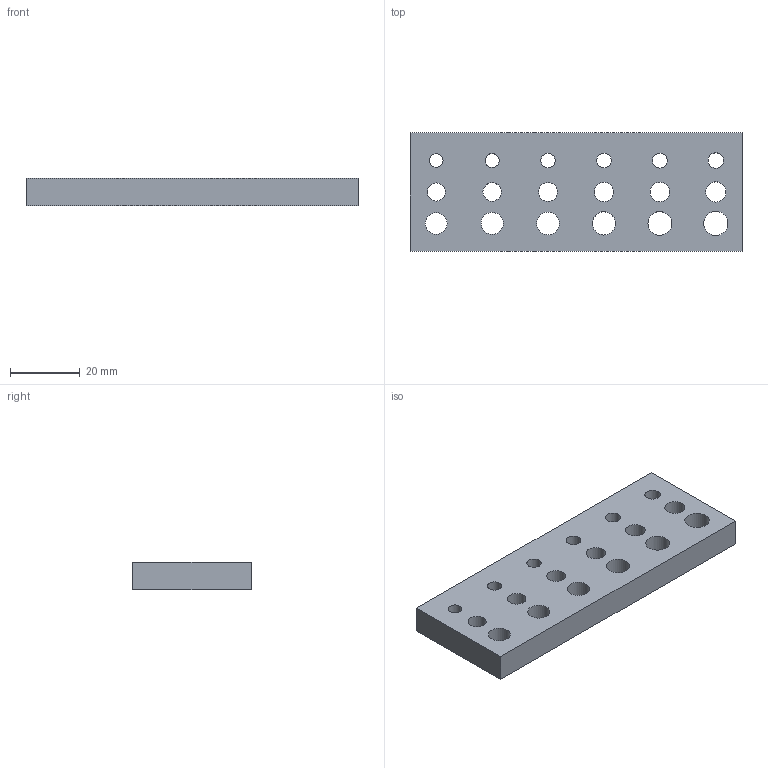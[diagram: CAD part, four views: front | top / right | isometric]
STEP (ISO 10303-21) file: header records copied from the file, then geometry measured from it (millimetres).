
FILE_DESCRIPTION(('Open CASCADE Model'),'2;1');
FILE_NAME('Open CASCADE Shape Model','2026-09-10T23:36:51',('Author'),( 'Open CASCADE'),'Open CASCADE STEP processor 7.9','Open CASCADE 7.9' ,'Unknown');
FILE_SCHEMA(('AUTOMOTIVE_DESIGN { 1 0 10303 214 1 1 1 1 }'));
Length unit declared in the file: millimetre
Products named in the file (1): Open CASCADE STEP translator 7.9 18
Bounding box: 95 x 34 x 8 mm (x, y, z)
Volume: 22429.3 mm3; surface area: 10113 mm2
Topology: 1 solids, 1 shells, 24 faces, 66 edges, 44 vertices
Faces by surface type: cylinder 18, plane 6
Full cylindrical faces by diameter (mm): 3.9 x1, 4 x1, 4.1 x1, 4.2 x1, 4.3 x1, 4.4 x1, 5.2 x1, 5.3 x1, 5.4 x1, 5.5 x1, 5.6 x1, 5.8 x1, 6.2 x1, 6.35 x1, 6.5 x1, 6.65 x1, 6.8 x1, 6.95 x1
Entity records: 1834 total; most frequent: CARTESIAN_POINT 483, DIRECTION 248, ORIENTED_EDGE 132, PCURVE 132, DEFINITIONAL_REPRESENTATION 132, LINE 126, VECTOR 126, EDGE_CURVE 66
